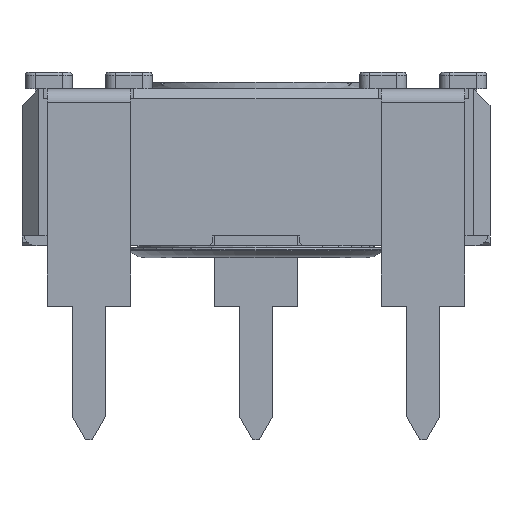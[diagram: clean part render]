
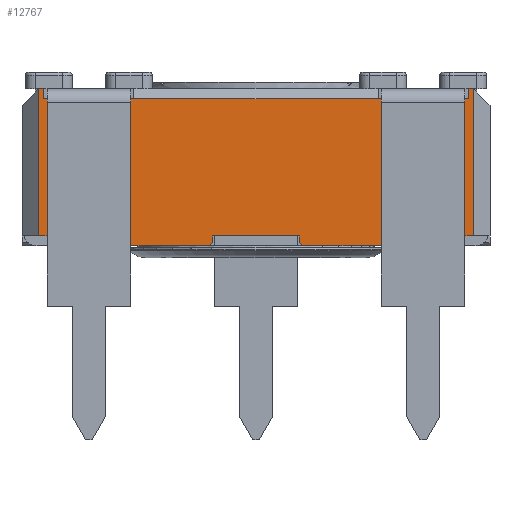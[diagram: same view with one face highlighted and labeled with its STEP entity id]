
A CAD part, front view. The second image highlights one B-rep face of the part: STEP entity #12767.
In plain terms, the highlighted planar face has unit normal (0, -1, 0).
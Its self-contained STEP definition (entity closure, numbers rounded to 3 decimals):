
#966=FACE_OUTER_BOUND('',#1648,.T.);
#1648=EDGE_LOOP('',(#9968,#9969,#9970,#9971,#9972,#9973,#9974,#9975,#9976,
#9977,#9978,#9979,#9980,#9981,#9982,#9983,#9984,#9985,#9986,#9987,#9988,
#9989,#9990,#9991,#9992));
#2133=LINE('',#18006,#3607);
#2141=LINE('',#18026,#3615);
#2165=LINE('',#18073,#3639);
#2166=LINE('',#18075,#3640);
#2171=LINE('',#18086,#3645);
#2195=LINE('',#18133,#3669);
#2383=LINE('',#18688,#3857);
#2396=LINE('',#18712,#3870);
#2543=LINE('',#19164,#4017);
#2748=LINE('',#19687,#4222);
#2753=LINE('',#19697,#4227);
#2758=LINE('',#19707,#4232);
#2773=LINE('',#19733,#4247);
#2880=LINE('',#20050,#4354);
#2888=LINE('',#20068,#4362);
#2894=LINE('',#20076,#4368);
#2895=LINE('',#20079,#4369);
#2896=LINE('',#20081,#4370);
#2897=LINE('',#20083,#4371);
#2898=LINE('',#20084,#4372);
#2899=LINE('',#20085,#4373);
#2900=LINE('',#20086,#4374);
#2901=LINE('',#20087,#4375);
#2902=LINE('',#20088,#4376);
#2903=LINE('',#20089,#4377);
#3607=VECTOR('',#14397,10.);
#3615=VECTOR('',#14419,10.);
#3639=VECTOR('',#14445,10.);
#3640=VECTOR('',#14448,10.);
#3645=VECTOR('',#14463,10.);
#3669=VECTOR('',#14489,10.);
#3857=VECTOR('',#15051,10.);
#3870=VECTOR('',#15078,10.);
#4017=VECTOR('',#15461,10.);
#4222=VECTOR('',#15808,10.);
#4227=VECTOR('',#15813,10.);
#4232=VECTOR('',#15818,10.);
#4247=VECTOR('',#15835,10.);
#4354=VECTOR('',#16090,10.);
#4362=VECTOR('',#16102,10.);
#4368=VECTOR('',#16112,10.);
#4369=VECTOR('',#16115,10.);
#4370=VECTOR('',#16116,10.);
#4371=VECTOR('',#16117,10.);
#4372=VECTOR('',#16118,10.);
#4373=VECTOR('',#16119,10.);
#4374=VECTOR('',#16120,10.);
#4375=VECTOR('',#16121,10.);
#4376=VECTOR('',#16122,10.);
#4377=VECTOR('',#16123,10.);
#5002=VERTEX_POINT('',#17861);
#5008=VERTEX_POINT('',#17878);
#5018=VERTEX_POINT('',#17900);
#5065=VERTEX_POINT('',#18005);
#5070=VERTEX_POINT('',#18025);
#5092=VERTEX_POINT('',#18071);
#5093=VERTEX_POINT('',#18085);
#5115=VERTEX_POINT('',#18131);
#5294=VERTEX_POINT('',#18685);
#5295=VERTEX_POINT('',#18687);
#5298=VERTEX_POINT('',#18709);
#5299=VERTEX_POINT('',#18711);
#5425=VERTEX_POINT('',#19160);
#5577=VERTEX_POINT('',#19686);
#5581=VERTEX_POINT('',#19694);
#5582=VERTEX_POINT('',#19696);
#5586=VERTEX_POINT('',#19704);
#5587=VERTEX_POINT('',#19706);
#5664=VERTEX_POINT('',#20048);
#5665=VERTEX_POINT('',#20049);
#5672=VERTEX_POINT('',#20066);
#5673=VERTEX_POINT('',#20067);
#5674=VERTEX_POINT('',#20078);
#5675=VERTEX_POINT('',#20080);
#5676=VERTEX_POINT('',#20082);
#6301=EDGE_CURVE('',#5065,#5002,#2133,.T.);
#6311=EDGE_CURVE('',#5070,#5065,#2141,.T.);
#6335=EDGE_CURVE('',#5002,#5092,#2165,.T.);
#6336=EDGE_CURVE('',#5008,#5018,#2166,.T.);
#6341=EDGE_CURVE('',#5093,#5008,#2171,.T.);
#6365=EDGE_CURVE('',#5018,#5115,#2195,.T.);
#6644=EDGE_CURVE('',#5295,#5294,#2383,.T.);
#6657=EDGE_CURVE('',#5299,#5298,#2396,.T.);
#6853=EDGE_CURVE('',#5299,#5425,#2543,.T.);
#7079=EDGE_CURVE('',#5577,#5425,#2748,.T.);
#7084=EDGE_CURVE('',#5582,#5581,#2753,.T.);
#7089=EDGE_CURVE('',#5587,#5586,#2758,.T.);
#7104=EDGE_CURVE('',#5587,#5294,#2773,.T.);
#7230=EDGE_CURVE('',#5664,#5665,#2880,.T.);
#7238=EDGE_CURVE('',#5672,#5673,#2888,.T.);
#7244=EDGE_CURVE('',#5582,#5664,#2894,.T.);
#7245=EDGE_CURVE('',#5581,#5674,#2895,.T.);
#7246=EDGE_CURVE('',#5675,#5674,#2896,.T.);
#7247=EDGE_CURVE('',#5675,#5676,#2897,.T.);
#7248=EDGE_CURVE('',#5676,#5577,#2898,.T.);
#7249=EDGE_CURVE('',#5298,#5093,#2899,.T.);
#7250=EDGE_CURVE('',#5070,#5115,#2900,.T.);
#7251=EDGE_CURVE('',#5092,#5295,#2901,.T.);
#7252=EDGE_CURVE('',#5586,#5673,#2902,.T.);
#7253=EDGE_CURVE('',#5672,#5665,#2903,.T.);
#9968=ORIENTED_EDGE('',*,*,#7230,.F.);
#9969=ORIENTED_EDGE('',*,*,#7244,.F.);
#9970=ORIENTED_EDGE('',*,*,#7084,.T.);
#9971=ORIENTED_EDGE('',*,*,#7245,.T.);
#9972=ORIENTED_EDGE('',*,*,#7246,.F.);
#9973=ORIENTED_EDGE('',*,*,#7247,.T.);
#9974=ORIENTED_EDGE('',*,*,#7248,.T.);
#9975=ORIENTED_EDGE('',*,*,#7079,.T.);
#9976=ORIENTED_EDGE('',*,*,#6853,.F.);
#9977=ORIENTED_EDGE('',*,*,#6657,.T.);
#9978=ORIENTED_EDGE('',*,*,#7249,.T.);
#9979=ORIENTED_EDGE('',*,*,#6341,.T.);
#9980=ORIENTED_EDGE('',*,*,#6336,.T.);
#9981=ORIENTED_EDGE('',*,*,#6365,.T.);
#9982=ORIENTED_EDGE('',*,*,#7250,.F.);
#9983=ORIENTED_EDGE('',*,*,#6311,.T.);
#9984=ORIENTED_EDGE('',*,*,#6301,.T.);
#9985=ORIENTED_EDGE('',*,*,#6335,.T.);
#9986=ORIENTED_EDGE('',*,*,#7251,.T.);
#9987=ORIENTED_EDGE('',*,*,#6644,.T.);
#9988=ORIENTED_EDGE('',*,*,#7104,.F.);
#9989=ORIENTED_EDGE('',*,*,#7089,.T.);
#9990=ORIENTED_EDGE('',*,*,#7252,.T.);
#9991=ORIENTED_EDGE('',*,*,#7238,.F.);
#9992=ORIENTED_EDGE('',*,*,#7253,.T.);
#11963=PLANE('',#13626);
#12767=ADVANCED_FACE('',(#966),#11963,.T.);
#13626=AXIS2_PLACEMENT_3D('',#20077,#16113,#16114);
#14397=DIRECTION('',(-1.,0.,0.));
#14419=DIRECTION('',(-1.,0.,0.));
#14445=DIRECTION('',(-1.,0.,0.));
#14448=DIRECTION('',(-1.,0.,0.));
#14463=DIRECTION('',(-1.,0.,0.));
#14489=DIRECTION('',(-1.,0.,0.));
#15051=DIRECTION('',(-1.,0.,0.));
#15078=DIRECTION('',(-1.,0.,0.));
#15461=DIRECTION('',(0.,0.,-1.));
#15808=DIRECTION('',(1.,0.,0.));
#15813=DIRECTION('',(1.,0.,0.));
#15818=DIRECTION('',(1.,0.,0.));
#15835=DIRECTION('',(0.,0.,1.));
#16090=DIRECTION('',(-0.707,0.,-0.707));
#16102=DIRECTION('',(-0.707,0.,0.707));
#16112=DIRECTION('',(0.,0.,-1.));
#16113=DIRECTION('center_axis',(0.,-1.,0.));
#16114=DIRECTION('ref_axis',(0.,0.,-1.));
#16115=DIRECTION('',(0.,0.,-1.));
#16116=DIRECTION('',(-0.707,0.,0.707));
#16117=DIRECTION('',(1.,0.,0.));
#16118=DIRECTION('',(0.,0.,1.));
#16119=DIRECTION('',(0.,0.,-1.));
#16120=DIRECTION('',(1.,0.,0.));
#16121=DIRECTION('',(0.,0.,1.));
#16122=DIRECTION('',(0.,0.,-1.));
#16123=DIRECTION('',(1.,0.,0.));
#17861=CARTESIAN_POINT('',(-13.717,-9.898,4.1));
#17878=CARTESIAN_POINT('',(-1.217,-9.898,4.1));
#17900=CARTESIAN_POINT('',(-3.717,-9.898,4.1));
#18005=CARTESIAN_POINT('',(-11.217,-9.898,4.1));
#18006=CARTESIAN_POINT('',(-3.944,-9.898,4.1));
#18025=CARTESIAN_POINT('',(-11.117,-9.898,4.1));
#18026=CARTESIAN_POINT('',(-3.944,-9.898,4.1));
#18071=CARTESIAN_POINT('',(-13.817,-9.898,4.1));
#18073=CARTESIAN_POINT('',(-3.944,-9.898,4.1));
#18075=CARTESIAN_POINT('',(-1.862,-9.898,4.1));
#18085=CARTESIAN_POINT('',(-1.117,-9.898,4.1));
#18086=CARTESIAN_POINT('',(-1.862,-9.898,4.1));
#18131=CARTESIAN_POINT('',(-3.817,-9.898,4.1));
#18133=CARTESIAN_POINT('',(-1.862,-9.898,4.1));
#18685=CARTESIAN_POINT('',(-13.967,-9.898,4.4));
#18687=CARTESIAN_POINT('',(-13.817,-9.898,4.4));
#18688=CARTESIAN_POINT('',(-14.467,-9.898,4.4));
#18709=CARTESIAN_POINT('',(-1.117,-9.898,4.4));
#18711=CARTESIAN_POINT('',(-0.967,-9.898,4.4));
#18712=CARTESIAN_POINT('',(-14.467,-9.898,4.4));
#19160=CARTESIAN_POINT('',(-0.967,-9.898,0.));
#19164=CARTESIAN_POINT('',(-0.967,-9.898,0.));
#19686=CARTESIAN_POINT('',(-1.467,-9.898,0.));
#19687=CARTESIAN_POINT('',(-0.646,-9.898,0.));
#19694=CARTESIAN_POINT('',(-6.167,-9.898,0.));
#19696=CARTESIAN_POINT('',(-8.767,-9.898,0.));
#19697=CARTESIAN_POINT('',(-14.467,-9.898,0.));
#19704=CARTESIAN_POINT('',(-13.467,-9.898,0.));
#19706=CARTESIAN_POINT('',(-13.967,-9.898,0.));
#19707=CARTESIAN_POINT('',(-7.245,-9.898,0.));
#19733=CARTESIAN_POINT('',(-13.967,-9.898,0.));
#20048=CARTESIAN_POINT('',(-8.767,-9.898,-0.2));
#20049=CARTESIAN_POINT('',(-8.867,-9.898,-0.3));
#20050=CARTESIAN_POINT('',(-6.667,-9.898,1.9));
#20066=CARTESIAN_POINT('',(-13.367,-9.898,-0.3));
#20067=CARTESIAN_POINT('',(-13.467,-9.898,-0.2));
#20068=CARTESIAN_POINT('',(-10.242,-9.898,-3.425));
#20076=CARTESIAN_POINT('',(-8.767,-9.898,0.));
#20077=CARTESIAN_POINT('Origin',(-0.467,-9.898,0.));
#20078=CARTESIAN_POINT('',(-6.167,-9.898,-0.2));
#20079=CARTESIAN_POINT('',(-6.167,-9.898,0.));
#20080=CARTESIAN_POINT('',(-6.067,-9.898,-0.3));
#20081=CARTESIAN_POINT('',(-4.767,-9.898,-1.6));
#20082=CARTESIAN_POINT('',(-1.467,-9.898,-0.3));
#20083=CARTESIAN_POINT('',(-0.467,-9.898,-0.3));
#20084=CARTESIAN_POINT('',(-1.467,-9.898,-0.15));
#20085=CARTESIAN_POINT('',(-1.117,-9.898,2.2));
#20086=CARTESIAN_POINT('',(-3.967,-9.898,4.1));
#20087=CARTESIAN_POINT('',(-13.817,-9.898,2.2));
#20088=CARTESIAN_POINT('',(-13.467,-9.898,-0.15));
#20089=CARTESIAN_POINT('',(-0.467,-9.898,-0.3));
